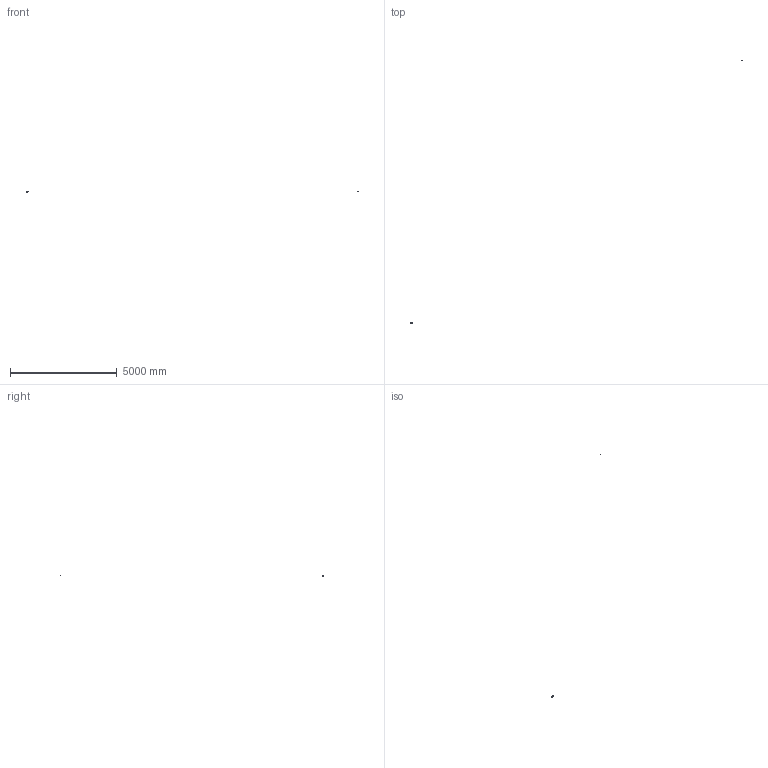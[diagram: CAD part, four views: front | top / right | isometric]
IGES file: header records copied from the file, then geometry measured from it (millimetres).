
Global section: file name: C:\Users\PC9\Desktop\SRX3_FILE\SRX3_M12\SRX3_M12_COMPLETO.igs; native system: Rhinoceros ( May 19 2006 ); preprocessor: Trout Lake IGES 012 May 19 2006; date: 150513.144549; units: millimetre
Bounding box: 15559.16 x 12302.43 x 56.53 mm (x, y, z)
Surface area: 57209.6 mm2 (no closed solid volume)
Topology: 0 solids, 0 shells, 778 faces, 14116 edges, 14120 vertices
Faces by surface type: bspline 778
